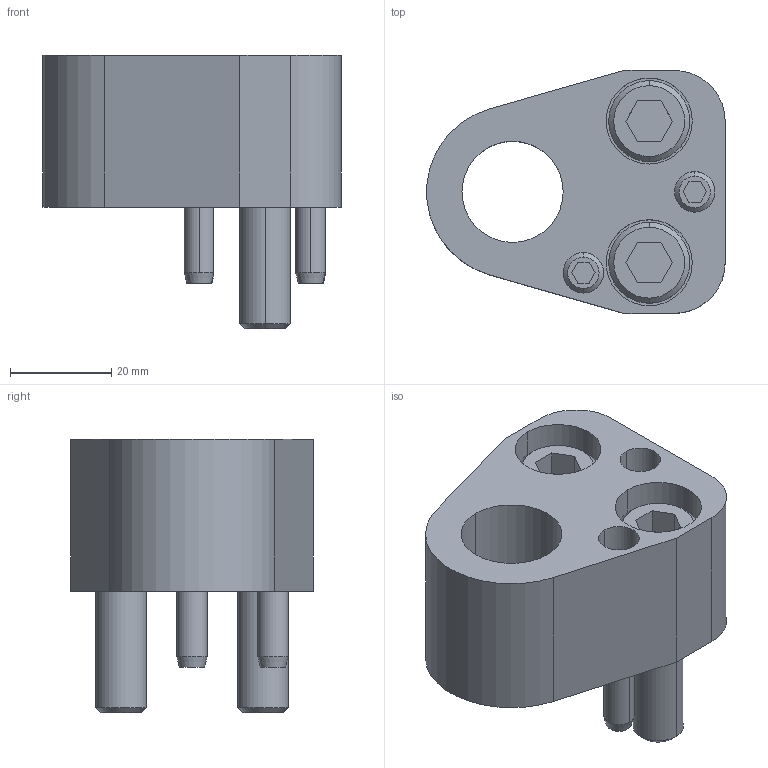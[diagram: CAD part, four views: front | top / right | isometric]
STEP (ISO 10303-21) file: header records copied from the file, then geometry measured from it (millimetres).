
FILE_DESCRIPTION(/* description */ (''),/* implementation_level */ '2;1');
FILE_NAME(/* name */ '3d_fpar20_03769_r00.stp',/* time_stamp */ '2011-01-10T14:15:35+09:00',/* author */ ('MISUMI'),/* organization */ (''),/* preprocessor_version */ 'ST-DEVELOPER v11',/* originating_system */ 'UGS - NX 5.0',/* authorisation */ '');
FILE_SCHEMA (('CONFIG_CONTROL_DESIGN'));
Length unit declared in the file: millimetre
Products named in the file (1): 3d_fpar20_03769_r00
Bounding box: 58.94 x 48 x 54 mm (x, y, z)
Volume: 57541.7 mm3; surface area: 21348.8 mm2
Topology: 7 solids, 7 shells, 135 faces, 294 edges, 188 vertices
Faces by surface type: plane 60, cylinder 49, cone 26
Entity records: 3836 total; most frequent: DIRECTION 684, CARTESIAN_POINT 672, ORIENTED_EDGE 588, EDGE_CURVE 294, AXIS2_PLACEMENT_3D 260, VERTEX_POINT 188, LINE 164, VECTOR 164
